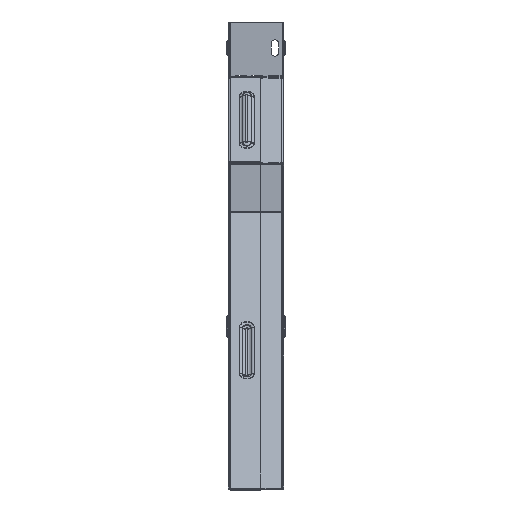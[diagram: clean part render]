
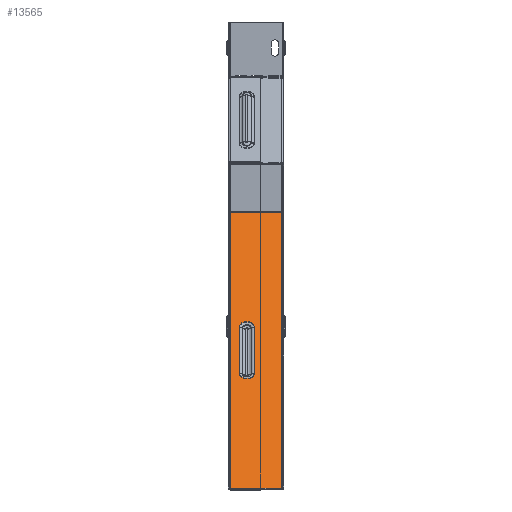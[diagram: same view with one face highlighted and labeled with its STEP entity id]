
A CAD part, left-side view. The second image highlights one B-rep face of the part: STEP entity #13565.
In plain terms, the highlighted planar face has unit normal (-0.707, 0, 0.707).
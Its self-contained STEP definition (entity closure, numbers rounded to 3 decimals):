
#338 = LINE ( 'NONE', #7121, #13932 ) ;
#370 = CARTESIAN_POINT ( 'NONE',  ( 108.148, 40.017, -65.721 ) ) ;
#728 = VECTOR ( 'NONE', #14775, 1000. ) ;
#754 = EDGE_CURVE ( 'NONE', #9213, #5452, #3064, .T. ) ;
#802 = VERTEX_POINT ( 'NONE', #13718 ) ;
#1061 = EDGE_CURVE ( 'NONE', #6965, #7004, #13865, .T. ) ;
#1412 = ORIENTED_EDGE ( 'NONE', *, *, #1061, .F. ) ;
#1483 = FACE_BOUND ( 'NONE', #16714, .T. ) ;
#1990 = CARTESIAN_POINT ( 'NONE',  ( -40.255, 0., -214.123 ) ) ;
#2220 = EDGE_CURVE ( 'NONE', #9750, #6965, #5760, .T. ) ;
#2280 = DIRECTION ( 'NONE',  ( -0.707, 0., 0.707 ) ) ;
#2357 = CARTESIAN_POINT ( 'NONE',  ( 214.434, 1., 40.566 ) ) ;
#2627 = VECTOR ( 'NONE', #14056, 1000. ) ;
#2715 = DIRECTION ( 'NONE',  ( 0.707, 0., 0.707 ) ) ;
#3064 = LINE ( 'NONE', #13381, #728 ) ;
#3661 = VECTOR ( 'NONE', #5087, 1000. ) ;
#3738 = CARTESIAN_POINT ( 'NONE',  ( 86.934, 40.017, -86.934 ) ) ;
#3868 = CARTESIAN_POINT ( 'NONE',  ( 86.934, 0., -86.934 ) ) ;
#4419 = CARTESIAN_POINT ( 'NONE',  ( 108.148, 33.1, -65.721 ) ) ;
#4508 = CARTESIAN_POINT ( 'NONE',  ( 65.721, 40.017, -108.148 ) ) ;
#5087 = DIRECTION ( 'NONE',  ( -0.707, 0., -0.707 ) ) ;
#5150 = DIRECTION ( 'NONE',  ( 0.707, 0., 0.707 ) ) ;
#5204 = ORIENTED_EDGE ( 'NONE', *, *, #17167, .F. ) ;
#5452 = VERTEX_POINT ( 'NONE', #11622 ) ;
#5760 = LINE ( 'NONE', #3738, #3661 ) ;
#6273 = CARTESIAN_POINT ( 'NONE',  ( 65.721, 33.1, -108.148 ) ) ;
#6477 = PLANE ( 'NONE',  #8790 ) ;
#6965 = VERTEX_POINT ( 'NONE', #4508 ) ;
#7004 = VERTEX_POINT ( 'NONE', #10418 ) ;
#7121 = CARTESIAN_POINT ( 'NONE',  ( 214.434, 48.2, 40.566 ) ) ;
#7257 = EDGE_CURVE ( 'NONE', #7004, #802, #16641, .T. ) ;
#7353 = DIRECTION ( 'NONE',  ( 0.707, 0., 0.707 ) ) ;
#8179 = LINE ( 'NONE', #2357, #2627 ) ;
#8637 = ORIENTED_EDGE ( 'NONE', *, *, #2220, .F. ) ;
#8790 = AXIS2_PLACEMENT_3D ( 'NONE', #3868, #16179, #5150 ) ;
#9213 = VERTEX_POINT ( 'NONE', #14757 ) ;
#9247 = CIRCLE ( 'NONE', #16809, 6.917 ) ;
#9420 = VECTOR ( 'NONE', #2715, 1000. ) ;
#9750 = VERTEX_POINT ( 'NONE', #370 ) ;
#9941 = LINE ( 'NONE', #1990, #10183 ) ;
#10183 = VECTOR ( 'NONE', #16117, 1000. ) ;
#10303 = EDGE_CURVE ( 'NONE', #16428, #5452, #338, .T. ) ;
#10418 = CARTESIAN_POINT ( 'NONE',  ( 65.721, 26.183, -108.148 ) ) ;
#11019 = EDGE_CURVE ( 'NONE', #11541, #16428, #9941, .T. ) ;
#11301 = DIRECTION ( 'NONE',  ( -0.707, 0., 0.707 ) ) ;
#11541 = VERTEX_POINT ( 'NONE', #16065 ) ;
#11622 = CARTESIAN_POINT ( 'NONE',  ( 214.123, 48.2, 40.255 ) ) ;
#11793 = DIRECTION ( 'NONE',  ( 0., 1., 0. ) ) ;
#11872 = ORIENTED_EDGE ( 'NONE', *, *, #12251, .F. ) ;
#12251 = EDGE_CURVE ( 'NONE', #802, #9750, #9247, .T. ) ;
#12385 = ORIENTED_EDGE ( 'NONE', *, *, #7257, .F. ) ;
#12692 = ORIENTED_EDGE ( 'NONE', *, *, #754, .T. ) ;
#13381 = CARTESIAN_POINT ( 'NONE',  ( 214.123, 0., 40.255 ) ) ;
#13565 = ADVANCED_FACE ( 'NONE', ( #1483, #14024 ), #6477, .T. ) ;
#13718 = CARTESIAN_POINT ( 'NONE',  ( 108.148, 26.183, -65.721 ) ) ;
#13865 = CIRCLE ( 'NONE', #13889, 6.917 ) ;
#13889 = AXIS2_PLACEMENT_3D ( 'NONE', #6273, #2280, #11793 ) ;
#13932 = VECTOR ( 'NONE', #7353, 1000. ) ;
#14024 = FACE_OUTER_BOUND ( 'NONE', #15440, .T. ) ;
#14056 = DIRECTION ( 'NONE',  ( -0.707, 0., -0.707 ) ) ;
#14159 = ORIENTED_EDGE ( 'NONE', *, *, #11019, .F. ) ;
#14578 = ORIENTED_EDGE ( 'NONE', *, *, #10303, .F. ) ;
#14757 = CARTESIAN_POINT ( 'NONE',  ( 214.123, 1., 40.255 ) ) ;
#14775 = DIRECTION ( 'NONE',  ( 0., 1., 0. ) ) ;
#14944 = CARTESIAN_POINT ( 'NONE',  ( -40.255, 48.2, -214.123 ) ) ;
#15440 = EDGE_LOOP ( 'NONE', ( #5204, #12692, #14578, #14159 ) ) ;
#16065 = CARTESIAN_POINT ( 'NONE',  ( -40.255, 1., -214.123 ) ) ;
#16117 = DIRECTION ( 'NONE',  ( 0., 1., 0. ) ) ;
#16179 = DIRECTION ( 'NONE',  ( -0.707, 0., 0.707 ) ) ;
#16297 = CARTESIAN_POINT ( 'NONE',  ( 86.934, 26.183, -86.934 ) ) ;
#16428 = VERTEX_POINT ( 'NONE', #14944 ) ;
#16641 = LINE ( 'NONE', #16297, #9420 ) ;
#16675 = DIRECTION ( 'NONE',  ( 0., 1., 0. ) ) ;
#16714 = EDGE_LOOP ( 'NONE', ( #1412, #8637, #11872, #12385 ) ) ;
#16809 = AXIS2_PLACEMENT_3D ( 'NONE', #4419, #11301, #16675 ) ;
#17167 = EDGE_CURVE ( 'NONE', #9213, #11541, #8179, .T. ) ;
